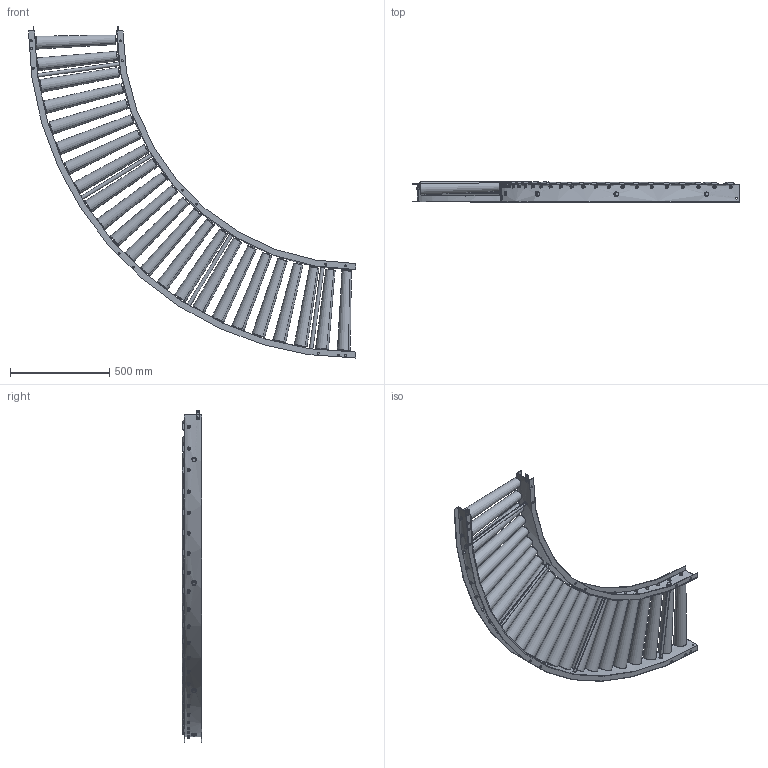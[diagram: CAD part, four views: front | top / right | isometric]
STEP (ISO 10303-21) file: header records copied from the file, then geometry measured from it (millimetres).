
FILE_DESCRIPTION (( 'STEP AP203' ), '1' );
FILE_NAME ('R-TC1200_C.step', '2024-03-15T02:35:32', ( '' ), ( '' ), 'SwSTEP 2.0', 'SolidWorks 2023', '' );
FILE_SCHEMA (( 'CONFIG_CONTROL_DESIGN' ));
Length unit declared in the file: millimetre
Products named in the file (1): R-TC1200_C
Bounding box: 1645 x 100.32 x 1670.07 mm (x, y, z)
Volume: 25166025.5 mm3; surface area: 4285267.9 mm2
Topology: 70 solids, 70 shells, 1036 faces, 2386 edges, 1544 vertices
Faces by surface type: cylinder 461, plane 389, cone 94, torus 92
Entity records: 38515 total; most frequent: CARTESIAN_POINT 14307, DIRECTION 5160, ORIENTED_EDGE 4772, EDGE_CURVE 2386, AXIS2_PLACEMENT_3D 2143, VERTEX_POINT 1544, EDGE_LOOP 1342, CIRCLE 1106
